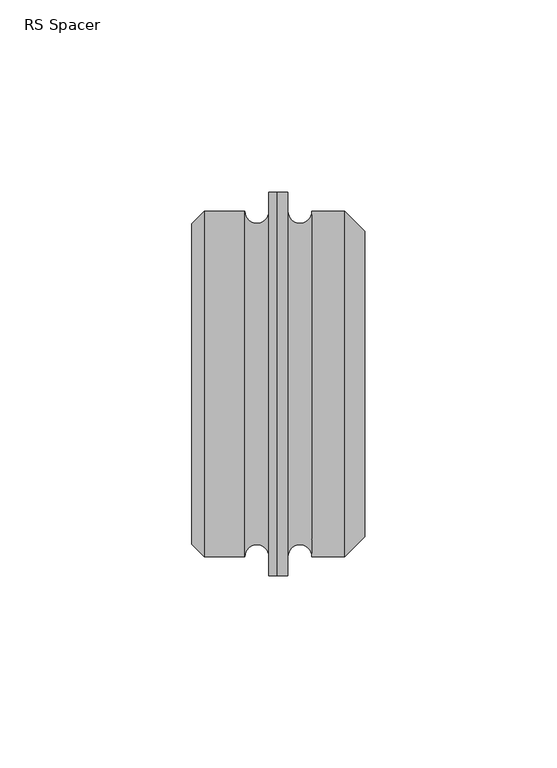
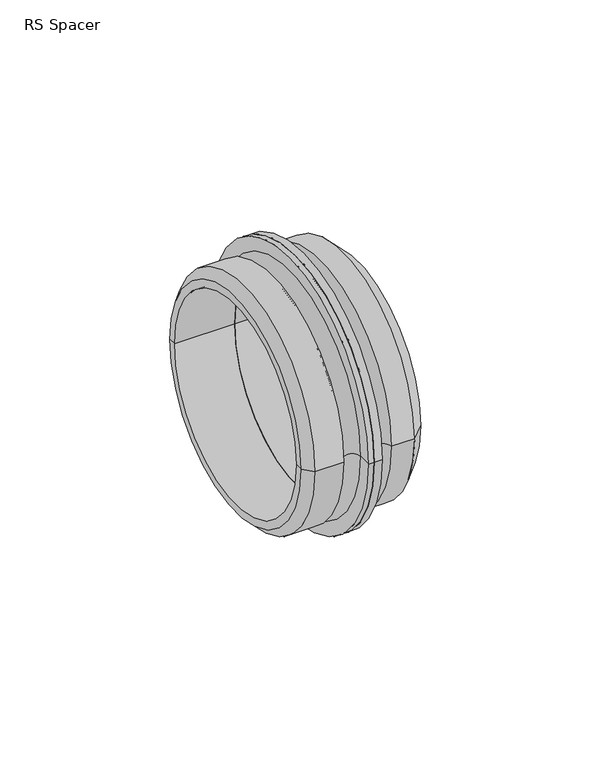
"""IFC4 building model written with IfcOpenShell, lengths in millimetres: pipe fitting geometry, RS Spacer : Superpipe RS Spacer - RS3 5mm."""

from ifc_helpers import new_model, si_unit, point, frame, origin, place, context, project, spatial, polyline, circle_curve, ellipse_curve, trimmed, source, transform, mapped, element, save
from ifc_brep_helpers import plane_surface, cylinder_surface, revolved_surface, advanced_brep


def rs_spacer_aa593b7b(model_context):
    return source(origin(), model_context, "Body", "AdvancedBrep", [
        advanced_brep(
        [(22.2, -50.0, 0.0), (22.2, 50.0, 0.0), (25.0, 50.0, 0.0), (25.0, -50.0, 0.0), (25.0, 45.0, 0.0), (25.0, -45.0, 0.0), (45.0, -38.8, 0.0), (45.0, 38.8, 0.0), (22.2, 38.8, 0.0), (22.2, -38.8, 0.0), (39.8, -45.0, 0.0), (39.8, 45.0, 0.0), (45.0, 39.8, 0.0), (45.0, -39.8, 0.0), (31.2, 45.0, 0.0), (31.2, -45.0, 0.0)],
        [
            (0, 1, circle_curve(frame((22.2, 0.0, 0.0), z_axis=(1.0, 0.0, 0.0), x_axis=(0.0, 1.0, 0.0)), 50.0)),
            (1, 2),
            (2, 3, circle_curve(frame((25.0, 0.0, 0.0), z_axis=(-1.0, 0.0, 0.0), x_axis=(0.0, 1.0, 0.0)), 50.0)),
            (3, 0),
            (1, 0, circle_curve(frame((22.2, 0.0, 0.0), z_axis=(1.0, 0.0, 0.0), x_axis=(0.0, 1.0, 0.0)), 50.0)),
            (3, 2, circle_curve(frame((25.0, 0.0, 0.0), z_axis=(-1.0, 0.0, 0.0), x_axis=(0.0, 1.0, 0.0)), 50.0)),
            (2, 4),
            (4, 5, circle_curve(frame((25.0, 0.0, 0.0), z_axis=(-1.0, 0.0, 0.0), x_axis=(0.0, 1.0, 0.0)), 45.0)),
            (5, 3),
            (5, 4, circle_curve(frame((25.0, 0.0, 0.0), z_axis=(-1.0, 0.0, 0.0), x_axis=(0.0, 1.0, 0.0)), 45.0)),
            (6, 7, circle_curve(frame((45.0, 0.0, 0.0), z_axis=(1.0, 0.0, 0.0), x_axis=(0.0, 1.0, 0.0)), 38.8)),
            (7, 8),
            (8, 9, circle_curve(frame((22.2, 0.0, 0.0), z_axis=(-1.0, 0.0, 0.0), x_axis=(0.0, 1.0, 0.0)), 38.8)),
            (9, 6),
            (7, 6, circle_curve(frame((45.0, 0.0, 0.0), z_axis=(1.0, 0.0, 0.0), x_axis=(0.0, 1.0, 0.0)), 38.8)),
            (9, 8, circle_curve(frame((22.2, 0.0, 0.0), z_axis=(-1.0, 0.0, 0.0), x_axis=(0.0, 1.0, 0.0)), 38.8)),
            (8, 1),
            (0, 9),
            (10, 11, circle_curve(frame((39.8, 0.0, 0.0), z_axis=(1.0, 0.0, 0.0), x_axis=(0.0, 1.0, 0.0)), 45.0)),
            (11, 12),
            (12, 13, circle_curve(frame((45.0, 0.0, 0.0), z_axis=(-1.0, 0.0, 0.0), x_axis=(0.0, 1.0, 0.0)), 39.8)),
            (13, 10),
            (11, 10, circle_curve(frame((39.8, 0.0, 0.0), z_axis=(1.0, 0.0, 0.0), x_axis=(0.0, 1.0, 0.0)), 45.0)),
            (13, 12, circle_curve(frame((45.0, 0.0, 0.0), z_axis=(-1.0, 0.0, 0.0), x_axis=(0.0, 1.0, 0.0)), 39.8)),
            (12, 7),
            (6, 13),
            (4, 14, circle_curve(frame((28.1, 45.0, 0.0), z_axis=(0.0, 0.0, 1.0), x_axis=(-1.0, 0.0, 0.0)), 3.1)),
            (14, 15, circle_curve(frame((31.2, 0.0, 0.0), z_axis=(-1.0, 0.0, 0.0), x_axis=(0.0, 1.0, 0.0)), 45.0)),
            (15, 5, circle_curve(frame((28.1, -45.0, 0.0), z_axis=(0.0, 0.0, 1.0), x_axis=(-1.0, 0.0, 0.0)), 3.1)),
            (15, 14, circle_curve(frame((31.2, 0.0, 0.0), z_axis=(-1.0, 0.0, 0.0), x_axis=(0.0, 1.0, 0.0)), 45.0)),
            (14, 11),
            (10, 15),
        ],
        [
            cylinder_surface(frame((-1994.4, 0.0, 0.0), z_axis=(-1.0, 0.0, 0.0), x_axis=(0.0, 1.0, 0.0)), 50.0),
            plane_surface(frame((25.0, 0.0, 0.0), z_axis=(1.0, 0.0, 0.0), x_axis=(0.0, 1.0, 0.0))),
            revolved_surface(polyline([(22.200000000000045, 38.8, 0.0), (45.0, 38.8, 0.0)]), (-1994.4, 0.0, 0.0), (-1.0, 0.0, 0.0)),
            plane_surface(frame((22.2, 0.0, 0.0), z_axis=(-1.0, 0.0, 0.0), x_axis=(0.0, 1.0, 0.0))),
            revolved_surface(polyline([(45.0, 39.8, 0.0), (39.8, 45.0, 0.0)]), (-1994.4, 0.0, 0.0), (-1.0, 0.0, 0.0)),
            plane_surface(frame((45.0, 0.0, 0.0), z_axis=(1.0, 0.0, 0.0), x_axis=(0.0, 1.0, 0.0))),
            revolved_surface(trimmed(ellipse_curve(frame((28.1, 45.0, 0.0), z_axis=(0.0, 0.0, -1.0), x_axis=(-1.0, 0.0, 0.0)), 3.1, 3.1), [point((31.2, 45.0, 0.0))], [point((25.0, 45.0, 0.0))], True, "CARTESIAN"), (-1994.4, 0.0, 0.0), (-1.0, 0.0, 0.0)),
            cylinder_surface(frame((-1994.4, 0.0, 0.0), z_axis=(-1.0, 0.0, 0.0), x_axis=(0.0, 1.0, 0.0)), 45.0),
        ],
        [
            (0, [[1, 2, 3, 4]]),
            (0, [[5, -4, 6, -2]]),
            (1, [[-3, 7, 8, 9]]),
            (1, [[-6, -9, 10, -7]]),
            (2, [[11, 12, 13, 14]]),
            (2, [[15, -14, 16, -12]]),
            (3, [[-13, 17, -1, 18]]),
            (3, [[-16, -18, -5, -17]]),
            (4, [[19, 20, 21, 22]]),
            (4, [[23, -22, 24, -20]]),
            (5, [[-21, 25, -11, 26]]),
            (5, [[-24, -26, -15, -25]]),
            (6, [[-8, 27, 28, 29]]),
            (6, [[-10, -29, 30, -27]]),
            (7, [[-28, 31, -19, 32]]),
            (7, [[-30, -32, -23, -31]]),
        ],
    ),
        advanced_brep(
        [(20.0, -50.0, 0.0), (20.0, 50.0, 0.0), (22.8, 50.0, 0.0), (22.8, -50.0, 0.0), (20.0, -45.0, 0.0), (20.0, 45.0, 0.0), (22.8, -38.8, 0.0), (22.8, 38.8, 0.0), (0.0, 38.8, 0.0), (0.0, -38.8, 0.0), (0.0, -41.8, 0.0), (0.0, 41.8, 0.0), (3.2, 45.0, 0.0), (3.2, -45.0, 0.0), (13.8, -45.0, 0.0), (13.8, 45.0, 0.0)],
        [
            (0, 1, circle_curve(frame((20.0, 0.0, 0.0), z_axis=(1.0, 0.0, 0.0), x_axis=(0.0, 1.0, 0.0)), 50.0)),
            (1, 2),
            (2, 3, circle_curve(frame((22.8, 0.0, 0.0), z_axis=(-1.0, 0.0, 0.0), x_axis=(0.0, 1.0, 0.0)), 50.0)),
            (3, 0),
            (1, 0, circle_curve(frame((20.0, 0.0, 0.0), z_axis=(1.0, 0.0, 0.0), x_axis=(0.0, 1.0, 0.0)), 50.0)),
            (3, 2, circle_curve(frame((22.8, 0.0, 0.0), z_axis=(-1.0, 0.0, 0.0), x_axis=(0.0, 1.0, 0.0)), 50.0)),
            (4, 5, circle_curve(frame((20.0, 0.0, 0.0), z_axis=(1.0, 0.0, 0.0), x_axis=(0.0, 1.0, 0.0)), 45.0)),
            (5, 1),
            (0, 4),
            (5, 4, circle_curve(frame((20.0, 0.0, 0.0), z_axis=(1.0, 0.0, 0.0), x_axis=(0.0, 1.0, 0.0)), 45.0)),
            (6, 7, circle_curve(frame((22.8, 0.0, 0.0), z_axis=(1.0, 0.0, 0.0), x_axis=(0.0, 1.0, 0.0)), 38.8)),
            (7, 8),
            (8, 9, circle_curve(frame((0.0, 0.0, 0.0), z_axis=(-1.0, 0.0, 0.0), x_axis=(0.0, 1.0, 0.0)), 38.8)),
            (9, 6),
            (7, 6, circle_curve(frame((22.8, 0.0, 0.0), z_axis=(1.0, 0.0, 0.0), x_axis=(0.0, 1.0, 0.0)), 38.8)),
            (9, 8, circle_curve(frame((0.0, 0.0, 0.0), z_axis=(-1.0, 0.0, 0.0), x_axis=(0.0, 1.0, 0.0)), 38.8)),
            (2, 7),
            (6, 3),
            (10, 11, circle_curve(frame((0.0, 0.0, 0.0), z_axis=(1.0, 0.0, 0.0), x_axis=(0.0, 1.0, 0.0)), 41.8)),
            (11, 12),
            (12, 13, circle_curve(frame((3.2, 0.0, 0.0), z_axis=(-1.0, 0.0, 0.0), x_axis=(0.0, 1.0, 0.0)), 45.0)),
            (13, 10),
            (11, 10, circle_curve(frame((0.0, 0.0, 0.0), z_axis=(1.0, 0.0, 0.0), x_axis=(0.0, 1.0, 0.0)), 41.8)),
            (13, 12, circle_curve(frame((3.2, 0.0, 0.0), z_axis=(-1.0, 0.0, 0.0), x_axis=(0.0, 1.0, 0.0)), 45.0)),
            (8, 11),
            (10, 9),
            (14, 15, circle_curve(frame((13.8, 0.0, 0.0), z_axis=(1.0, 0.0, 0.0), x_axis=(0.0, 1.0, 0.0)), 45.0)),
            (15, 5, circle_curve(frame((16.9, 45.0, 0.0), z_axis=(0.0, 0.0, 1.0), x_axis=(1.0, 0.0, 0.0)), 3.1)),
            (4, 14, circle_curve(frame((16.9, -45.0, 0.0), z_axis=(0.0, 0.0, 1.0), x_axis=(1.0, 0.0, 0.0)), 3.1)),
            (15, 14, circle_curve(frame((13.8, 0.0, 0.0), z_axis=(1.0, 0.0, 0.0), x_axis=(0.0, 1.0, 0.0)), 45.0)),
            (12, 15),
            (14, 13),
        ],
        [
            cylinder_surface(frame((1965.0, 0.0, 0.0), z_axis=(-1.0, 0.0, 0.0), x_axis=(0.0, 1.0, 0.0)), 50.0),
            plane_surface(frame((20.0, 0.0, 0.0), z_axis=(-1.0, 0.0, 0.0), x_axis=(0.0, 1.0, 0.0))),
            revolved_surface(polyline([(0.0, 38.8, 0.0), (22.799999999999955, 38.8, 0.0)]), (1965.0, 0.0, 0.0), (-1.0, 0.0, 0.0)),
            plane_surface(frame((22.8, 0.0, 0.0), z_axis=(1.0, 0.0, 0.0), x_axis=(0.0, 1.0, 0.0))),
            revolved_surface(polyline([(3.2, 45.0, 0.0), (0.0, 41.8, 0.0)]), (1965.0, 0.0, 0.0), (-1.0, 0.0, 0.0)),
            plane_surface(frame((0.0, 0.0, 0.0), z_axis=(-1.0, 0.0, 0.0), x_axis=(0.0, 1.0, 0.0))),
            revolved_surface(trimmed(ellipse_curve(frame((16.9, 45.0, 0.0), z_axis=(0.0, 0.0, -1.0), x_axis=(1.0, 0.0, 0.0)), 3.1, 3.1), [point((20.0, 45.0, 0.0))], [point((13.8, 45.0, 0.0))], True, "CARTESIAN"), (1965.0, 0.0, 0.0), (-1.0, 0.0, 0.0)),
            cylinder_surface(frame((1965.0, 0.0, 0.0), z_axis=(-1.0, 0.0, 0.0), x_axis=(0.0, 1.0, 0.0)), 45.0),
        ],
        [
            (0, [[1, 2, 3, 4]]),
            (0, [[5, -4, 6, -2]]),
            (1, [[7, 8, -1, 9]]),
            (1, [[10, -9, -5, -8]]),
            (2, [[11, 12, 13, 14]]),
            (2, [[15, -14, 16, -12]]),
            (3, [[-3, 17, -11, 18]]),
            (3, [[-6, -18, -15, -17]]),
            (4, [[19, 20, 21, 22]]),
            (4, [[23, -22, 24, -20]]),
            (5, [[-13, 25, -19, 26]]),
            (5, [[-16, -26, -23, -25]]),
            (6, [[27, 28, -7, 29]]),
            (6, [[30, -29, -10, -28]]),
            (7, [[-21, 31, -27, 32]]),
            (7, [[-24, -32, -30, -31]]),
        ],
    ),
    ])


if __name__ == "__main__":
    model = new_model("IFC4")
    model_context = context("Model", 3, world=origin())
    ifc_project = project(units=[si_unit("LENGTHUNIT", "METRE", prefix="MILLI")], contexts=[model_context])
    site = spatial("IfcSite", under=ifc_project)
    building = spatial("IfcBuilding", under=site)
    placement = place(None, origin())
    rs_spacer_shape = rs_spacer_aa593b7b(model_context)
    element("IfcPipeFitting", 1, ObjectType="RS Spacer : Superpipe RS Spacer - RS3 5mm", at=placement, inside=building, context=model_context, shape_type="MappedRepresentation", body=[
        mapped(rs_spacer_shape, transform((0.0, 0.0, 0.0), x_axis=(1.0, 0.0, 0.0), y_axis=(0.0, 1.0, 0.0), z_axis=(0.0, 0.0, 1.0))),
    ])
    save(model, "model.ifc")
